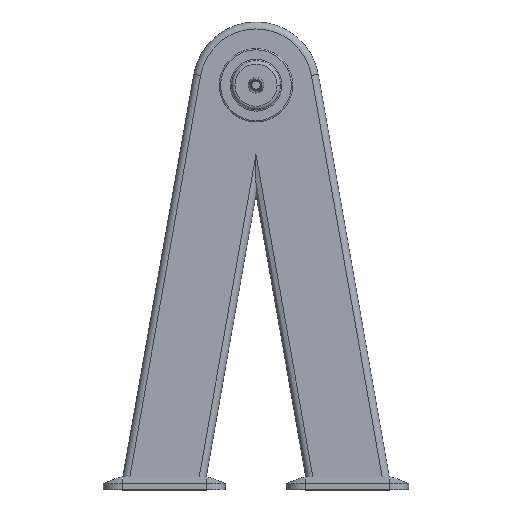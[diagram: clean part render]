
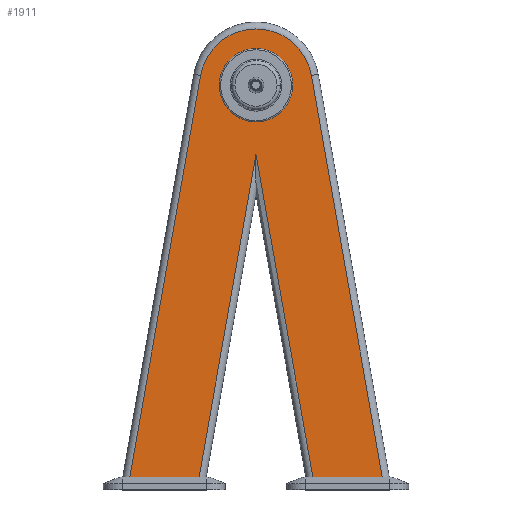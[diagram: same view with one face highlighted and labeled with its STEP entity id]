
A CAD part, top view. The second image highlights one B-rep face of the part: STEP entity #1911.
In plain terms, the highlighted planar face has unit normal (0, 0, 1).
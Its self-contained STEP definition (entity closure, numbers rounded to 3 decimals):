
#36 = ORIENTED_EDGE ( 'NONE', *, *, #2129, .F. ) ;
#37 = ORIENTED_EDGE ( 'NONE', *, *, #915, .T. ) ;
#143 = EDGE_CURVE ( 'NONE', #2191, #2558, #2556, .T. ) ;
#200 = AXIS2_PLACEMENT_3D ( 'NONE', #1314, #2813, #1539 ) ;
#262 = VECTOR ( 'NONE', #1251, 1000. ) ;
#361 = ORIENTED_EDGE ( 'NONE', *, *, #522, .T. ) ;
#377 = CARTESIAN_POINT ( 'NONE',  ( 87.648, 655.455, 63. ) ) ;
#417 = ORIENTED_EDGE ( 'NONE', *, *, #143, .F. ) ;
#478 = DIRECTION ( 'NONE',  ( 0.174, 0.985, 0. ) ) ;
#514 = CIRCLE ( 'NONE', #2069, 58. ) ;
#522 = EDGE_CURVE ( 'NONE', #2229, #1318, #1615, .T. ) ;
#527 = DIRECTION ( 'NONE',  ( -0.174, -0.985, 0. ) ) ;
#556 = ORIENTED_EDGE ( 'NONE', *, *, #1747, .T. ) ;
#587 = CARTESIAN_POINT ( 'NONE',  ( -90.03, 20., 63. ) ) ;
#622 = EDGE_CURVE ( 'NONE', #1669, #1668, #760, .T. ) ;
#664 = ORIENTED_EDGE ( 'NONE', *, *, #1291, .T. ) ;
#673 = CARTESIAN_POINT ( 'NONE',  ( -58., 640., 63. ) ) ;
#715 = LINE ( 'NONE', #2501, #1803 ) ;
#760 = CIRCLE ( 'NONE', #200, 58. ) ;
#888 = ORIENTED_EDGE ( 'NONE', *, *, #622, .F. ) ;
#908 = DIRECTION ( 'NONE',  ( 0., 0., 1. ) ) ;
#915 = EDGE_CURVE ( 'NONE', #2447, #1948, #1749, .T. ) ;
#1025 = VERTEX_POINT ( 'NONE', #2367 ) ;
#1168 = VECTOR ( 'NONE', #478, 1000. ) ;
#1173 = VECTOR ( 'NONE', #2322, 1000. ) ;
#1188 = CARTESIAN_POINT ( 'NONE',  ( 90.03, 20., 63. ) ) ;
#1204 = DIRECTION ( 'NONE',  ( 0., 0., 1. ) ) ;
#1207 = CARTESIAN_POINT ( 'NONE',  ( 0., 640., 63. ) ) ;
#1221 = DIRECTION ( 'NONE',  ( -1., 0., 0. ) ) ;
#1251 = DIRECTION ( 'NONE',  ( -1., 0., 0. ) ) ;
#1269 = FACE_BOUND ( 'NONE', #1891, .T. ) ;
#1291 = EDGE_CURVE ( 'NONE', #1025, #2558, #2812, .T. ) ;
#1314 = CARTESIAN_POINT ( 'NONE',  ( 0., 640., 63. ) ) ;
#1318 = VERTEX_POINT ( 'NONE', #1188 ) ;
#1357 = EDGE_CURVE ( 'NONE', #1668, #1669, #514, .T. ) ;
#1417 = ORIENTED_EDGE ( 'NONE', *, *, #2492, .T. ) ;
#1430 = DIRECTION ( 'NONE',  ( 1., 0., 0. ) ) ;
#1436 = CARTESIAN_POINT ( 'NONE',  ( 87.648, 655.455, 63. ) ) ;
#1483 = AXIS2_PLACEMENT_3D ( 'NONE', #2485, #1204, #2702 ) ;
#1537 = CARTESIAN_POINT ( 'NONE',  ( 199.696, 20., 63. ) ) ;
#1539 = DIRECTION ( 'NONE',  ( 1., 0., 0. ) ) ;
#1615 = LINE ( 'NONE', #1619, #2754 ) ;
#1619 = CARTESIAN_POINT ( 'NONE',  ( 96.142, -14.664, 63. ) ) ;
#1668 = VERTEX_POINT ( 'NONE', #673 ) ;
#1669 = VERTEX_POINT ( 'NONE', #2815 ) ;
#1743 = LINE ( 'NONE', #2422, #1168 ) ;
#1747 = EDGE_CURVE ( 'NONE', #2191, #2229, #1743, .T. ) ;
#1749 = LINE ( 'NONE', #377, #1173 ) ;
#1790 = CARTESIAN_POINT ( 'NONE',  ( -199.696, 20., 63. ) ) ;
#1803 = VECTOR ( 'NONE', #1221, 1000. ) ;
#1891 = EDGE_LOOP ( 'NONE', ( #2466, #888 ) ) ;
#1898 = CARTESIAN_POINT ( 'NONE',  ( 0., 530.583, 63. ) ) ;
#1911 = ADVANCED_FACE ( 'NONE', ( #1269, #1922 ), #2266, .T. ) ;
#1922 = FACE_OUTER_BOUND ( 'NONE', #2134, .T. ) ;
#1948 = VERTEX_POINT ( 'NONE', #1436 ) ;
#2069 = AXIS2_PLACEMENT_3D ( 'NONE', #1207, #2707, #1430 ) ;
#2077 = CIRCLE ( 'NONE', #2223, 89. ) ;
#2125 = CARTESIAN_POINT ( 'NONE',  ( 0., 20., 63. ) ) ;
#2129 = EDGE_CURVE ( 'NONE', #2447, #1318, #715, .T. ) ;
#2134 = EDGE_LOOP ( 'NONE', ( #417, #556, #361, #36, #37, #1417, #664 ) ) ;
#2191 = VERTEX_POINT ( 'NONE', #587 ) ;
#2194 = CARTESIAN_POINT ( 'NONE',  ( 0., 640., 63. ) ) ;
#2223 = AXIS2_PLACEMENT_3D ( 'NONE', #2194, #908, #2413 ) ;
#2229 = VERTEX_POINT ( 'NONE', #1898 ) ;
#2242 = VECTOR ( 'NONE', #527, 1000. ) ;
#2256 = CARTESIAN_POINT ( 'NONE',  ( -204.617, -7.91, 63. ) ) ;
#2266 = PLANE ( 'NONE',  #1483 ) ;
#2322 = DIRECTION ( 'NONE',  ( -0.174, 0.985, 0. ) ) ;
#2367 = CARTESIAN_POINT ( 'NONE',  ( -87.648, 655.455, 63. ) ) ;
#2413 = DIRECTION ( 'NONE',  ( 1., 0., 0. ) ) ;
#2422 = CARTESIAN_POINT ( 'NONE',  ( -10.833, 469.147, 63. ) ) ;
#2447 = VERTEX_POINT ( 'NONE', #1537 ) ;
#2465 = DIRECTION ( 'NONE',  ( 0.174, -0.985, 0. ) ) ;
#2466 = ORIENTED_EDGE ( 'NONE', *, *, #1357, .F. ) ;
#2485 = CARTESIAN_POINT ( 'NONE',  ( 0., 640., 63. ) ) ;
#2492 = EDGE_CURVE ( 'NONE', #1948, #1025, #2077, .T. ) ;
#2501 = CARTESIAN_POINT ( 'NONE',  ( 0., 20., 63. ) ) ;
#2556 = LINE ( 'NONE', #2125, #262 ) ;
#2558 = VERTEX_POINT ( 'NONE', #1790 ) ;
#2702 = DIRECTION ( 'NONE',  ( 1., 0., 0. ) ) ;
#2707 = DIRECTION ( 'NONE',  ( 0., 0., 1. ) ) ;
#2754 = VECTOR ( 'NONE', #2465, 1000. ) ;
#2812 = LINE ( 'NONE', #2256, #2242 ) ;
#2813 = DIRECTION ( 'NONE',  ( 0., 0., 1. ) ) ;
#2815 = CARTESIAN_POINT ( 'NONE',  ( 58., 640., 63. ) ) ;
